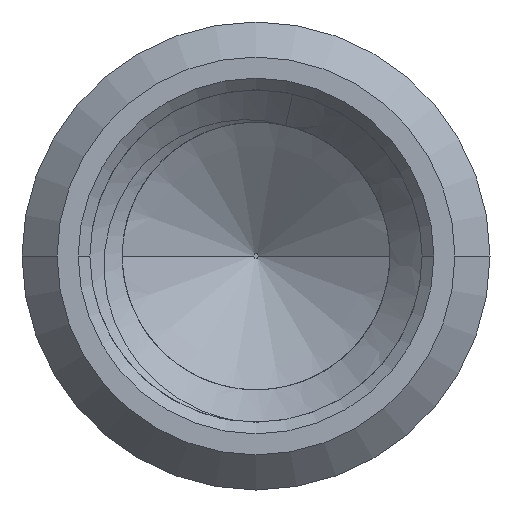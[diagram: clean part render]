
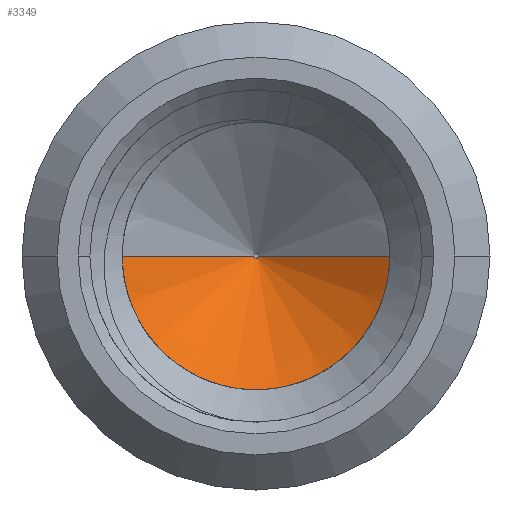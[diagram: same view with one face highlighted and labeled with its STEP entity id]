
A CAD part, front view. The second image highlights one B-rep face of the part: STEP entity #3349.
In plain terms, the highlighted conical face has half-angle 54.462 degrees and reference radius 0.748 mm.
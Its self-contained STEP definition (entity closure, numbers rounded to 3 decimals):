
#741=CARTESIAN_POINT('',(0.,-24.75,0.));
#742=DIRECTION('',(0.,1.,0.));
#743=DIRECTION('',(1.,0.,0.));
#744=AXIS2_PLACEMENT_3D('',#741,#742,#743);
#1499=DIRECTION('',(-0.814,-0.581,0.));
#1500=VECTOR('',#1499,1.72);
#1501=CARTESIAN_POINT('',(-0.02,-23.75,
0.));
#1502=LINE('',#1501,#1500);
#1508=CARTESIAN_POINT('',(0.,-23.75,0.));
#1509=DIRECTION('',(0.,1.,0.));
#1510=DIRECTION('',(1.,0.,0.));
#1511=AXIS2_PLACEMENT_3D('',#1508,#1509,#1510);
#1513=DIRECTION('',(0.814,-0.581,0.));
#1514=VECTOR('',#1513,1.72);
#1515=CARTESIAN_POINT('',(0.02,-23.75,
0.));
#1516=LINE('',#1515,#1514);
#1840=CARTESIAN_POINT('',(-0.02,-23.75,0.));
#1841=CARTESIAN_POINT('',(0.02,-23.75,0.));
#1842=VERTEX_POINT('',#1840);
#1843=VERTEX_POINT('',#1841);
#1844=CARTESIAN_POINT('',(-1.42,-24.75,0.));
#1845=CARTESIAN_POINT('',(1.42,-24.75,0.));
#1846=VERTEX_POINT('',#1844);
#1847=VERTEX_POINT('',#1845);
#3338=CARTESIAN_POINT('',(0.,-24.27,0.));
#3339=DIRECTION('',(0.,-1.,0.));
#3340=DIRECTION('',(0.,0.,-1.));
#3341=AXIS2_PLACEMENT_3D('',#3338,#3339,#3340);
#3342=CONICAL_SURFACE('',#3341,0.748,54.462);
#3343=ORIENTED_EDGE('',*,*,#3333,.F.);
#3344=ORIENTED_EDGE('',*,*,#3322,.T.);
#3345=ORIENTED_EDGE('',*,*,#2933,.T.);
#3346=ORIENTED_EDGE('',*,*,#3319,.F.);
#3347=EDGE_LOOP('',(#3343,#3344,#3345,#3346));
#3348=FACE_OUTER_BOUND('',#3347,.F.);
#3349=ADVANCED_FACE('',(#3348),#3342,.F.);
#745=CIRCLE('',#744,1.42);
#1512=CIRCLE('',#1511,0.02);
#2933=EDGE_CURVE('',#1847,#1846,#745,.T.);
#3319=EDGE_CURVE('',#1842,#1846,#1502,.T.);
#3322=EDGE_CURVE('',#1843,#1847,#1516,.T.);
#3333=EDGE_CURVE('',#1843,#1842,#1512,.T.);
